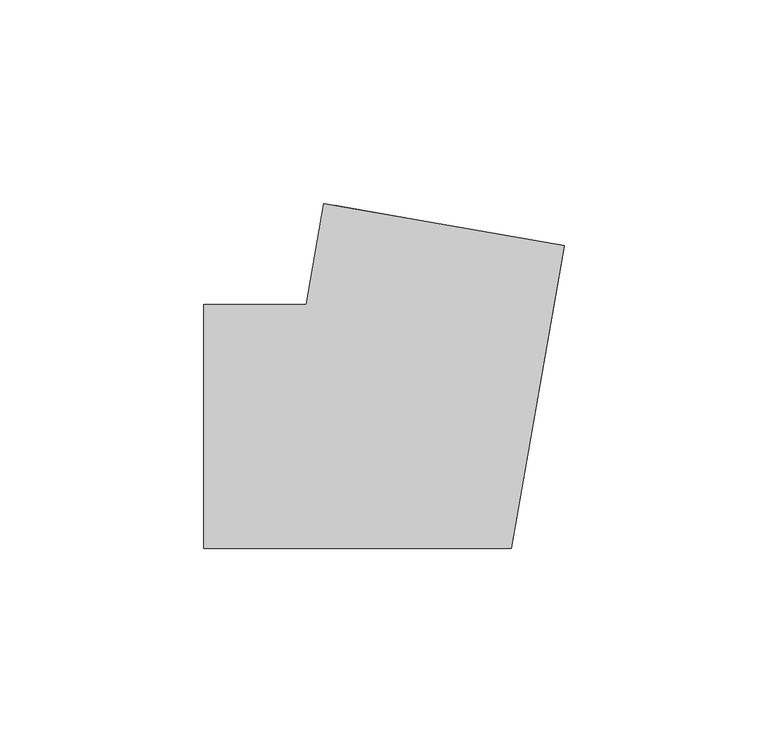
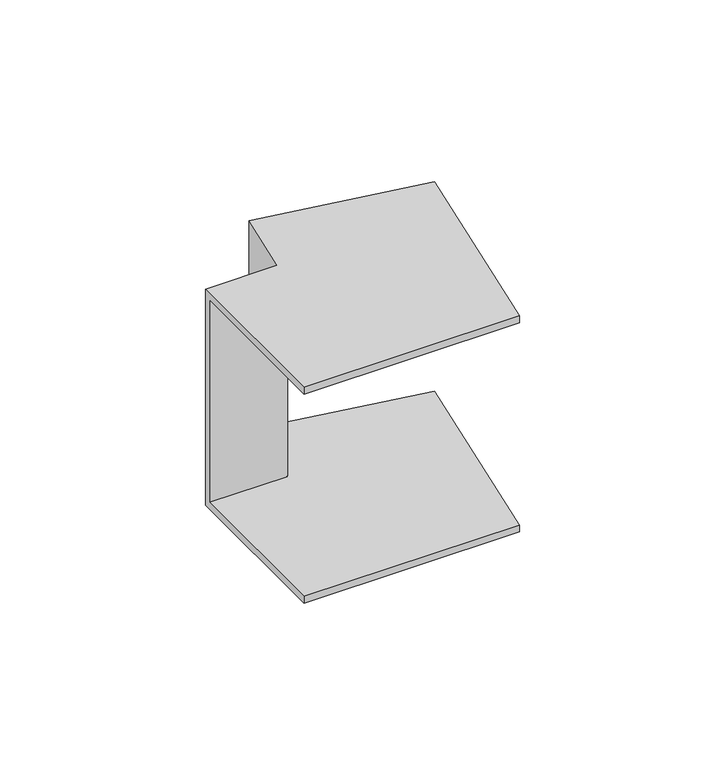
"""IFC4 building model written with IfcOpenShell, lengths in millimetres: cable carrier fitting geometry, КНС_УголВнешний_ILC_DKC : Угол внешний_DKC."""

from ifc_helpers import new_model, si_unit, origin, place, context, project, spatial, faceted_brep, source, transform, mapped, element, save


def cable_carrier_fitting_cc2d4106(model_context):
    return source(origin(), model_context, "Body", "Brep", [
        faceted_brep([(-50.3459779, 30.0, 40.0), (-50.3459779, 30.0, -40.0), (-50.3459779, -30.0, -40.0), (-50.3459779, -30.0, -37.5), (-50.3459779, 27.5, -37.5), (-50.3459779, 27.5, 37.5), (-50.3459779, -30.0, 37.5), (-50.3459779, -30.0, 40.0), (-20.8017453, 54.7905547, 40.0), (38.2867199, 44.371664, 40.0), (38.2867199, 44.371664, 37.5), (-18.3397259, 54.3564342, 37.5), (-18.3397259, 54.3564342, -37.5), (38.2867199, 44.371664, -37.5), (38.2867199, 44.371664, -40.0), (-20.8017453, 54.7905547, -40.0), (-25.1729889, 30.0, 40.0), (-25.1729889, 30.0, -40.0), (25.1729889, -30.0, -40.0), (25.1729889, -30.0, -37.5), (-23.0752399, 27.5, -37.5), (-23.0752399, 27.5, 37.5), (25.1729889, -30.0, 37.5), (25.1729889, -30.0, 40.0)], [[[0, 1, 2, 3, 4, 5, 6, 7]], [[8, 9, 10, 11, 12, 13, 14, 15]], [[1, 0, 16, 17]], [[2, 1, 17, 15, 14, 18]], [[3, 2, 18, 19]], [[4, 3, 19, 13, 12, 20]], [[5, 4, 20, 21]], [[6, 5, 21, 11, 10, 22]], [[7, 6, 22, 23]], [[0, 7, 23, 9, 8, 16]], [[17, 16, 8, 15]], [[19, 18, 14, 13]], [[21, 20, 12, 11]], [[23, 22, 10, 9]]]),
    ])


if __name__ == "__main__":
    model = new_model("IFC4")
    model_context = context("Model", 3, world=origin())
    ifc_project = project(units=[si_unit("LENGTHUNIT", "METRE", prefix="MILLI")], contexts=[model_context])
    site = spatial("IfcSite", under=ifc_project)
    building = spatial("IfcBuilding", under=site)
    placement = place(None, origin())
    cable_carrier_fitting_shape = cable_carrier_fitting_cc2d4106(model_context)
    element("IfcCableCarrierFitting", 1, ObjectType="КНС_УголВнешний_ILC_DKC : Угол внешний_DKC", at=placement, inside=building, context=model_context, shape_type="MappedRepresentation", body=[
        mapped(cable_carrier_fitting_shape, transform((0.0, 0.0, 0.0), x_axis=(1.0, 0.0, 0.0), y_axis=(0.0, 1.0, 0.0), z_axis=(0.0, 0.0, 1.0))),
    ])
    save(model, "model.ifc")
